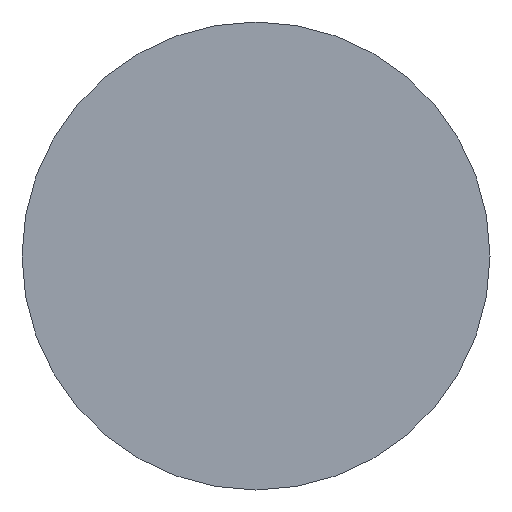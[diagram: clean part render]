
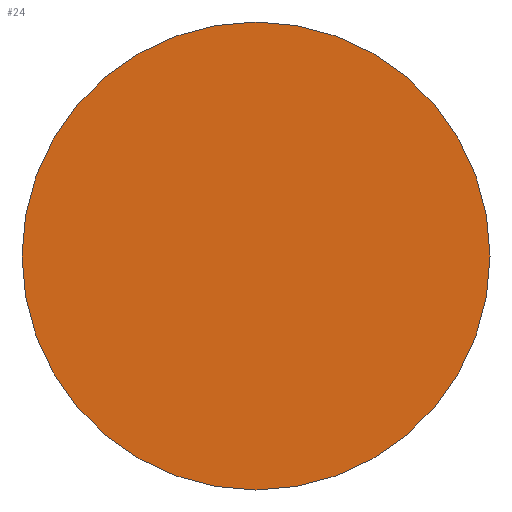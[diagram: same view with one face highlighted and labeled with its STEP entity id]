
A CAD part, left-side view. The second image highlights one B-rep face of the part: STEP entity #24.
In plain terms, the highlighted planar face has unit normal (-1, 0, 0).
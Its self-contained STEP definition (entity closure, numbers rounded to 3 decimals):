
#4 = AXIS2_PLACEMENT_3D ( 'NONE', #269, #289, #133 ) ;
#15 = DIRECTION ( 'NONE',  ( 0., 0., 1. ) ) ;
#24 = ADVANCED_FACE ( 'NONE', ( #276 ), #69, .F. ) ;
#37 = EDGE_LOOP ( 'NONE', ( #153, #57 ) ) ;
#57 = ORIENTED_EDGE ( 'NONE', *, *, #135, .T. ) ;
#62 = CIRCLE ( 'NONE', #264, 0.9 ) ;
#64 = DIRECTION ( 'NONE',  ( -1., 0., 0. ) ) ;
#69 = PLANE ( 'NONE',  #4 ) ;
#73 = CIRCLE ( 'NONE', #113, 0.9 ) ;
#101 = VERTEX_POINT ( 'NONE', #259 ) ;
#113 = AXIS2_PLACEMENT_3D ( 'NONE', #158, #64, #239 ) ;
#133 = DIRECTION ( 'NONE',  ( 0., 0., -1. ) ) ;
#135 = EDGE_CURVE ( 'NONE', #183, #101, #62, .T. ) ;
#153 = ORIENTED_EDGE ( 'NONE', *, *, #266, .T. ) ;
#158 = CARTESIAN_POINT ( 'NONE',  ( 0., 0., 0. ) ) ;
#169 = CARTESIAN_POINT ( 'NONE',  ( 0., 0., -0.9 ) ) ;
#181 = DIRECTION ( 'NONE',  ( -1., 0., 0. ) ) ;
#183 = VERTEX_POINT ( 'NONE', #169 ) ;
#239 = DIRECTION ( 'NONE',  ( 0., 0., 1. ) ) ;
#259 = CARTESIAN_POINT ( 'NONE',  ( 0., 0., 0.9 ) ) ;
#264 = AXIS2_PLACEMENT_3D ( 'NONE', #286, #181, #15 ) ;
#266 = EDGE_CURVE ( 'NONE', #101, #183, #73, .T. ) ;
#269 = CARTESIAN_POINT ( 'NONE',  ( 0., 0., 0. ) ) ;
#276 = FACE_OUTER_BOUND ( 'NONE', #37, .T. ) ;
#286 = CARTESIAN_POINT ( 'NONE',  ( 0., 0., 0. ) ) ;
#289 = DIRECTION ( 'NONE',  ( 1., 0., 0. ) ) ;
